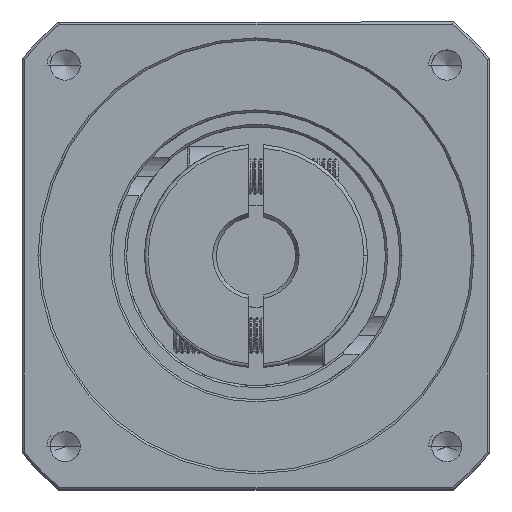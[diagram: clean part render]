
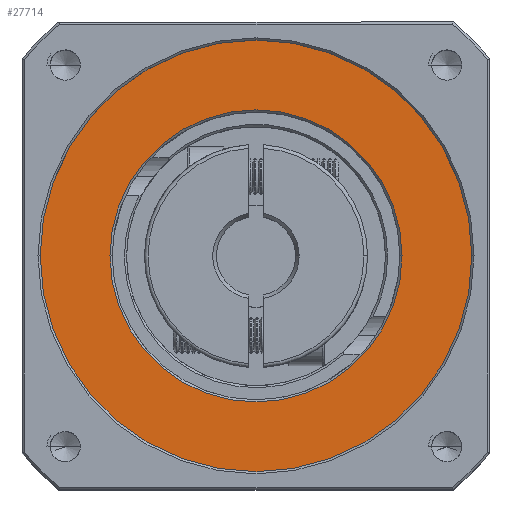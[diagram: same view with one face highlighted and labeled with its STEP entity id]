
A CAD part, top view. The second image highlights one B-rep face of the part: STEP entity #27714.
In plain terms, the highlighted planar face has unit normal (0, 0, 1).
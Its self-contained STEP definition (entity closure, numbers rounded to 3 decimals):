
#639 = VERTEX_POINT ( 'NONE', #81420 ) ;
#1137 = DIRECTION ( 'NONE',  ( 0., 0., 1. ) ) ;
#8374 = CARTESIAN_POINT ( 'NONE',  ( -61.9, 23.265, 17.333 ) ) ;
#8800 = CARTESIAN_POINT ( 'NONE',  ( -61.9, 23.265, 17.333 ) ) ;
#9383 = CIRCLE ( 'NONE', #97310, 20.3 ) ;
#12317 = ORIENTED_EDGE ( 'NONE', *, *, #41481, .T. ) ;
#16660 = EDGE_CURVE ( 'NONE', #23804, #53038, #9383, .T. ) ;
#17799 = EDGE_LOOP ( 'NONE', ( #54323, #36227 ) ) ;
#18382 = CARTESIAN_POINT ( 'NONE',  ( -61.9, 23.265, 17.333 ) ) ;
#23804 = VERTEX_POINT ( 'NONE', #35718 ) ;
#24967 = EDGE_CURVE ( 'NONE', #53038, #23804, #95073, .T. ) ;
#25037 = DIRECTION ( 'NONE',  ( 1., 0., 0. ) ) ;
#25937 = AXIS2_PLACEMENT_3D ( 'NONE', #8800, #1137, #25037 ) ;
#26769 = DIRECTION ( 'NONE',  ( 0., 0., 1. ) ) ;
#27714 = ADVANCED_FACE ( 'NONE', ( #99207, #96702 ), #89083, .T. ) ;
#28512 = EDGE_CURVE ( 'NONE', #639, #102775, #86569, .T. ) ;
#30749 = CIRCLE ( 'NONE', #25937, 30. ) ;
#32988 = DIRECTION ( 'NONE',  ( 0., 0., -1. ) ) ;
#35718 = CARTESIAN_POINT ( 'NONE',  ( -82.2, 23.265, 17.333 ) ) ;
#36227 = ORIENTED_EDGE ( 'NONE', *, *, #16660, .T. ) ;
#40882 = CARTESIAN_POINT ( 'NONE',  ( -31.9, 23.265, 17.333 ) ) ;
#41481 = EDGE_CURVE ( 'NONE', #102775, #639, #30749, .T. ) ;
#49778 = ORIENTED_EDGE ( 'NONE', *, *, #28512, .T. ) ;
#49990 = CARTESIAN_POINT ( 'NONE',  ( -41.6, 23.265, 17.333 ) ) ;
#52698 = EDGE_LOOP ( 'NONE', ( #12317, #49778 ) ) ;
#53038 = VERTEX_POINT ( 'NONE', #49990 ) ;
#54323 = ORIENTED_EDGE ( 'NONE', *, *, #24967, .T. ) ;
#54787 = DIRECTION ( 'NONE',  ( 1., 0., 0. ) ) ;
#62409 = CARTESIAN_POINT ( 'NONE',  ( -61.9, 23.265, 17.333 ) ) ;
#63751 = DIRECTION ( 'NONE',  ( 0., 0., 1. ) ) ;
#64074 = DIRECTION ( 'NONE',  ( 1., 0., 0. ) ) ;
#65525 = DIRECTION ( 'NONE',  ( 1., 0., 0. ) ) ;
#74717 = AXIS2_PLACEMENT_3D ( 'NONE', #18382, #26769, #65525 ) ;
#80064 = CARTESIAN_POINT ( 'NONE',  ( -61.9, 23.265, 17.333 ) ) ;
#81420 = CARTESIAN_POINT ( 'NONE',  ( -91.9, 23.265, 17.333 ) ) ;
#84957 = DIRECTION ( 'NONE',  ( 0., 0., -1. ) ) ;
#86569 = CIRCLE ( 'NONE', #88051, 30. ) ;
#86969 = AXIS2_PLACEMENT_3D ( 'NONE', #62409, #84957, #54787 ) ;
#88051 = AXIS2_PLACEMENT_3D ( 'NONE', #8374, #63751, #64074 ) ;
#89062 = DIRECTION ( 'NONE',  ( 1., 0., 0. ) ) ;
#89083 = PLANE ( 'NONE',  #74717 ) ;
#95073 = CIRCLE ( 'NONE', #86969, 20.3 ) ;
#96702 = FACE_OUTER_BOUND ( 'NONE', #52698, .T. ) ;
#97310 = AXIS2_PLACEMENT_3D ( 'NONE', #80064, #32988, #89062 ) ;
#99207 = FACE_BOUND ( 'NONE', #17799, .T. ) ;
#102775 = VERTEX_POINT ( 'NONE', #40882 ) ;
